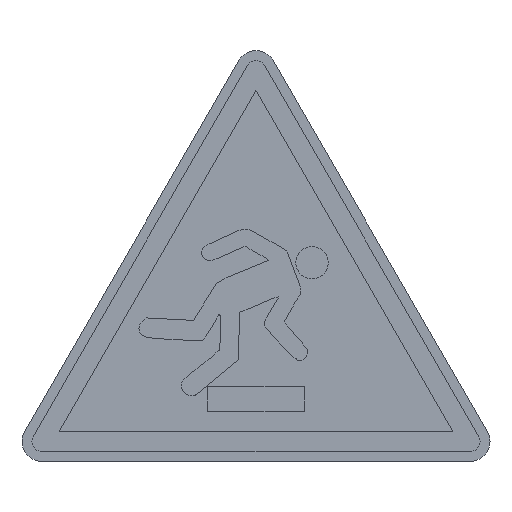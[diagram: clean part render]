
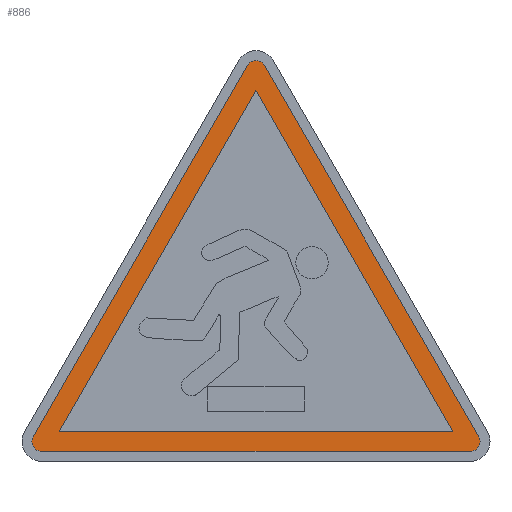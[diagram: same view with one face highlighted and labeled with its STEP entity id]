
A CAD part, top view. The second image highlights one B-rep face of the part: STEP entity #886.
In plain terms, the highlighted planar face has unit normal (0, 0, 1).
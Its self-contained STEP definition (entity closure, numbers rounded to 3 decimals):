
#6 = ORIENTED_EDGE ( 'NONE', *, *, #1013, .F. ) ;
#12 = CARTESIAN_POINT ( 'NONE',  ( 21.536, 1., 0.22 ) ) ;
#82 = EDGE_CURVE ( 'NONE', #89, #781, #1191, .T. ) ;
#88 = ORIENTED_EDGE ( 'NONE', *, *, #670, .T. ) ;
#89 = VERTEX_POINT ( 'NONE', #12 ) ;
#95 = ORIENTED_EDGE ( 'NONE', *, *, #1252, .F. ) ;
#103 = CARTESIAN_POINT ( 'NONE',  ( -21.536, 2., 0.22 ) ) ;
#135 = DIRECTION ( 'NONE',  ( -0.5, -0.866, 0. ) ) ;
#145 = LINE ( 'NONE', #1915, #192 ) ;
#165 = VECTOR ( 'NONE', #473, 1000. ) ;
#192 = VECTOR ( 'NONE', #135, 1000. ) ;
#225 = AXIS2_PLACEMENT_3D ( 'NONE', #341, #1936, #1114 ) ;
#249 = ORIENTED_EDGE ( 'NONE', *, *, #2070, .T. ) ;
#316 = AXIS2_PLACEMENT_3D ( 'NONE', #103, #1879, #1553 ) ;
#341 = CARTESIAN_POINT ( 'NONE',  ( 0., 39.301, 0.22 ) ) ;
#346 = CARTESIAN_POINT ( 'NONE',  ( 19.804, 3., 0.22 ) ) ;
#381 = LINE ( 'NONE', #1130, #1107 ) ;
#386 = EDGE_LOOP ( 'NONE', ( #1204, #397, #249, #1515, #1964, #1066, #88 ) ) ;
#396 = CARTESIAN_POINT ( 'NONE',  ( -21.536, 2., 0.22 ) ) ;
#397 = ORIENTED_EDGE ( 'NONE', *, *, #1081, .T. ) ;
#398 = VERTEX_POINT ( 'NONE', #539 ) ;
#473 = DIRECTION ( 'NONE',  ( -0.5, -0.866, 0. ) ) ;
#487 = EDGE_CURVE ( 'NONE', #1704, #1264, #492, .T. ) ;
#490 = AXIS2_PLACEMENT_3D ( 'NONE', #629, #1440, #780 ) ;
#491 = CARTESIAN_POINT ( 'NONE',  ( -21.536, 1., 0.22 ) ) ;
#492 = CIRCLE ( 'NONE', #225, 1. ) ;
#539 = CARTESIAN_POINT ( 'NONE',  ( -22.402, 2.5, 0.22 ) ) ;
#557 = EDGE_LOOP ( 'NONE', ( #95, #6, #1850 ) ) ;
#579 = CIRCLE ( 'NONE', #316, 1. ) ;
#618 = VERTEX_POINT ( 'NONE', #1617 ) ;
#629 = CARTESIAN_POINT ( 'NONE',  ( 21.536, 2., 0.22 ) ) ;
#632 = VECTOR ( 'NONE', #1461, 1000. ) ;
#654 = LINE ( 'NONE', #1156, #1537 ) ;
#659 = VERTEX_POINT ( 'NONE', #1480 ) ;
#670 = EDGE_CURVE ( 'NONE', #781, #1704, #381, .T. ) ;
#708 = CARTESIAN_POINT ( 'NONE',  ( 0.866, 39.801, 0.22 ) ) ;
#748 = CARTESIAN_POINT ( 'NONE',  ( -19.804, 3., 0.22 ) ) ;
#751 = CARTESIAN_POINT ( 'NONE',  ( 0., 39.301, 0.22 ) ) ;
#780 = DIRECTION ( 'NONE',  ( 1., 0., 0. ) ) ;
#781 = VERTEX_POINT ( 'NONE', #1169 ) ;
#794 = VERTEX_POINT ( 'NONE', #491 ) ;
#815 = DIRECTION ( 'NONE',  ( 1., 0., 0. ) ) ;
#886 = ADVANCED_FACE ( 'NONE', ( #1725, #911 ), #1546, .T. ) ;
#911 = FACE_BOUND ( 'NONE', #557, .T. ) ;
#1002 = LINE ( 'NONE', #346, #632 ) ;
#1013 = EDGE_CURVE ( 'NONE', #618, #1100, #145, .T. ) ;
#1027 = DIRECTION ( 'NONE',  ( 1., 0., 0. ) ) ;
#1066 = ORIENTED_EDGE ( 'NONE', *, *, #82, .T. ) ;
#1081 = EDGE_CURVE ( 'NONE', #1264, #398, #1564, .T. ) ;
#1093 = CARTESIAN_POINT ( 'NONE',  ( -22.536, 2., 0.22 ) ) ;
#1100 = VERTEX_POINT ( 'NONE', #748 ) ;
#1107 = VECTOR ( 'NONE', #1677, 1000. ) ;
#1114 = DIRECTION ( 'NONE',  ( 1., 0., 0. ) ) ;
#1130 = CARTESIAN_POINT ( 'NONE',  ( 22.402, 2.5, 0.22 ) ) ;
#1156 = CARTESIAN_POINT ( 'NONE',  ( -19.804, 3., 0.22 ) ) ;
#1169 = CARTESIAN_POINT ( 'NONE',  ( 22.402, 2.5, 0.22 ) ) ;
#1191 = CIRCLE ( 'NONE', #490, 1. ) ;
#1204 = ORIENTED_EDGE ( 'NONE', *, *, #487, .T. ) ;
#1252 = EDGE_CURVE ( 'NONE', #1100, #659, #654, .T. ) ;
#1261 = EDGE_CURVE ( 'NONE', #659, #618, #1002, .T. ) ;
#1264 = VERTEX_POINT ( 'NONE', #1486 ) ;
#1268 = AXIS2_PLACEMENT_3D ( 'NONE', #751, #1528, #2025 ) ;
#1330 = DIRECTION ( 'NONE',  ( 0., 0., 1. ) ) ;
#1338 = CARTESIAN_POINT ( 'NONE',  ( -21.536, 1., 0.22 ) ) ;
#1440 = DIRECTION ( 'NONE',  ( 0., 0., 1. ) ) ;
#1461 = DIRECTION ( 'NONE',  ( -0.5, 0.866, 0. ) ) ;
#1480 = CARTESIAN_POINT ( 'NONE',  ( 19.804, 3., 0.22 ) ) ;
#1486 = CARTESIAN_POINT ( 'NONE',  ( -0.866, 39.801, 0.22 ) ) ;
#1487 = LINE ( 'NONE', #1338, #1969 ) ;
#1515 = ORIENTED_EDGE ( 'NONE', *, *, #1645, .T. ) ;
#1528 = DIRECTION ( 'NONE',  ( 0., 0., 1. ) ) ;
#1537 = VECTOR ( 'NONE', #815, 1000. ) ;
#1546 = PLANE ( 'NONE',  #1268 ) ;
#1553 = DIRECTION ( 'NONE',  ( 1., 0., 0. ) ) ;
#1556 = AXIS2_PLACEMENT_3D ( 'NONE', #396, #1330, #1027 ) ;
#1564 = LINE ( 'NONE', #1739, #165 ) ;
#1612 = EDGE_CURVE ( 'NONE', #794, #89, #1487, .T. ) ;
#1617 = CARTESIAN_POINT ( 'NONE',  ( 0., 37.301, 0.22 ) ) ;
#1645 = EDGE_CURVE ( 'NONE', #1889, #794, #1670, .T. ) ;
#1670 = CIRCLE ( 'NONE', #1556, 1. ) ;
#1677 = DIRECTION ( 'NONE',  ( -0.5, 0.866, 0. ) ) ;
#1704 = VERTEX_POINT ( 'NONE', #708 ) ;
#1725 = FACE_OUTER_BOUND ( 'NONE', #386, .T. ) ;
#1739 = CARTESIAN_POINT ( 'NONE',  ( -0.866, 39.801, 0.22 ) ) ;
#1850 = ORIENTED_EDGE ( 'NONE', *, *, #1261, .F. ) ;
#1879 = DIRECTION ( 'NONE',  ( 0., 0., 1. ) ) ;
#1889 = VERTEX_POINT ( 'NONE', #1093 ) ;
#1915 = CARTESIAN_POINT ( 'NONE',  ( 0., 37.301, 0.22 ) ) ;
#1936 = DIRECTION ( 'NONE',  ( 0., 0., 1. ) ) ;
#1961 = DIRECTION ( 'NONE',  ( 1., 0., 0. ) ) ;
#1964 = ORIENTED_EDGE ( 'NONE', *, *, #1612, .T. ) ;
#1969 = VECTOR ( 'NONE', #1961, 1000. ) ;
#2025 = DIRECTION ( 'NONE',  ( 1., 0., 0. ) ) ;
#2070 = EDGE_CURVE ( 'NONE', #398, #1889, #579, .T. ) ;
